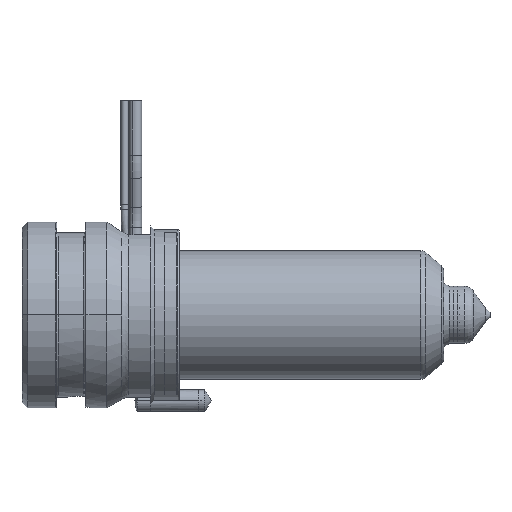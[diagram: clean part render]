
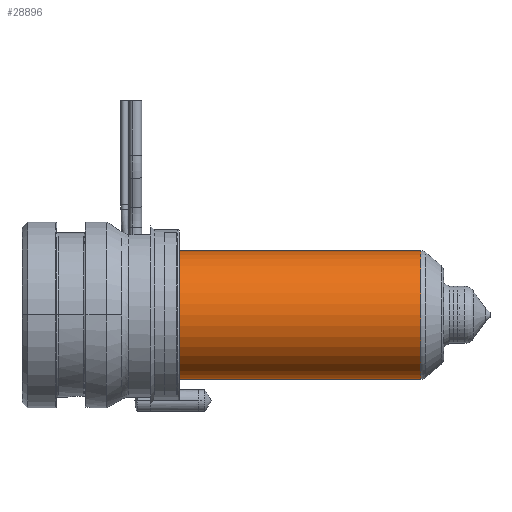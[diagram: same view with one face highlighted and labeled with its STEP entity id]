
A CAD part, left-side view. The second image highlights one B-rep face of the part: STEP entity #28896.
In plain terms, the highlighted cylindrical face has radius 9 mm (diameter 18 mm), a partial arc.
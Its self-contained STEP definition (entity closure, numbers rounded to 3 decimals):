
#28343=CARTESIAN_POINT('',(0.,-55.836,0.));
#28344=DIRECTION('',(0.,-1.,0.));
#28345=DIRECTION('',(0.,0.,1.));
#28346=AXIS2_PLACEMENT_3D('',#28343,#28344,#28345);
#28351=CARTESIAN_POINT('',(0.,-22.,0.));
#28352=DIRECTION('',(0.,-1.,0.));
#28353=DIRECTION('',(0.,0.,1.));
#28354=AXIS2_PLACEMENT_3D('',#28351,#28352,#28353);
#28359=DIRECTION('',(0.,-1.,0.));
#28360=VECTOR('',#28359,33.836);
#28361=CARTESIAN_POINT('',(0.,-22.,9.));
#28362=LINE('',#28361,#28360);
#28374=DIRECTION('',(0.,-1.,0.));
#28375=VECTOR('',#28374,33.836);
#28376=CARTESIAN_POINT('',(0.,-22.,-9.));
#28377=LINE('',#28376,#28375);
#28577=CARTESIAN_POINT('',(0.,-22.,9.));
#28578=CARTESIAN_POINT('',(0.,-55.836,9.));
#28579=VERTEX_POINT('',#28577);
#28580=VERTEX_POINT('',#28578);
#28599=CARTESIAN_POINT('',(0.,-22.,-9.));
#28600=CARTESIAN_POINT('',(0.,-55.836,-9.));
#28601=VERTEX_POINT('',#28599);
#28602=VERTEX_POINT('',#28600);
#28882=CARTESIAN_POINT('',(0.,-15.625,0.));
#28883=DIRECTION('',(0.,-1.,0.));
#28884=DIRECTION('',(0.,0.,1.));
#28885=AXIS2_PLACEMENT_3D('',#28882,#28883,#28884);
#28886=CYLINDRICAL_SURFACE('',#28885,9.);
#28888=ORIENTED_EDGE('',*,*,#28887,.T.);
#28889=ORIENTED_EDGE('',*,*,#28877,.T.);
#28891=ORIENTED_EDGE('',*,*,#28890,.F.);
#28893=ORIENTED_EDGE('',*,*,#28892,.F.);
#28894=EDGE_LOOP('',(#28888,#28889,#28891,#28893));
#28895=FACE_OUTER_BOUND('',#28894,.F.);
#28896=ADVANCED_FACE('',(#28895),#28886,.T.);
#28347=CIRCLE('',#28346,9.);
#28355=CIRCLE('',#28354,9.);
#28877=EDGE_CURVE('',#28580,#28602,#28347,.T.);
#28887=EDGE_CURVE('',#28579,#28580,#28362,.T.);
#28890=EDGE_CURVE('',#28601,#28602,#28377,.T.);
#28892=EDGE_CURVE('',#28579,#28601,#28355,.T.);
